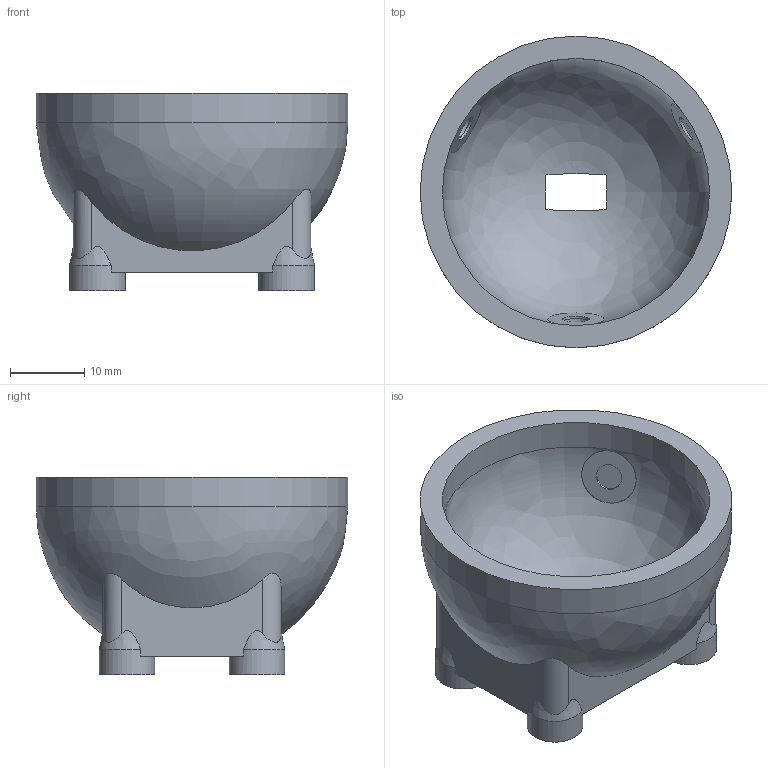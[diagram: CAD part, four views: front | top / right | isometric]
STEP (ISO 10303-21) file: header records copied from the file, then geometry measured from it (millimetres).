
FILE_DESCRIPTION(('Open CASCADE Model'),'2;1');
FILE_NAME('Open CASCADE Shape Model','2026-05-31T19:43:00',('Author'),( 'Open CASCADE'),'Open CASCADE STEP processor 7.6','Open CASCADE 7.6' ,'Unknown');
FILE_SCHEMA(('AP242_MANAGED_MODEL_BASED_3D_ENGINEERING_MIM_LF. {1 0 10303 442 1 1 4 }'));
Length unit declared in the file: millimetre
Products named in the file (1): Open CASCADE STEP translator 7.6 5
Bounding box: 42 x 42 x 26.6 mm (x, y, z)
Volume: 10705.2 mm3; surface area: 7288.1 mm2
Topology: 1 solids, 1 shells, 65 faces, 153 edges, 101 vertices
Faces by surface type: cylinder 27, plane 22, revolution 8, bspline 4, cone 4
Full cylindrical faces by diameter (mm): 3.5 x4, 3.57 x3, 3.572 x3, 7.5 x4, 7.57 x3, 36 x1, 42 x1
Entity records: 9148 total; most frequent: CARTESIAN_POINT 6141, DIRECTION 537, ORIENTED_EDGE 300, PCURVE 300, DEFINITIONAL_REPRESENTATION 300, LINE 251, VECTOR 251, EDGE_CURVE 150
